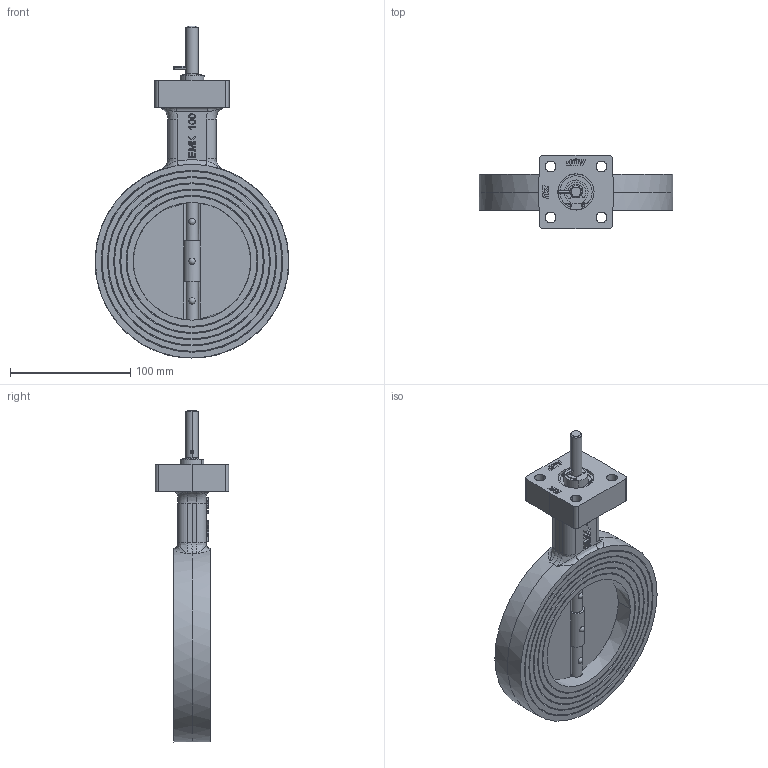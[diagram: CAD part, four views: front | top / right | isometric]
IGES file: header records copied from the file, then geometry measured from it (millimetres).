
Global section: file name: No Iges File Name specified; native system: AutoDesk Inventor R12.0; preprocessor: AutoDesk Inventor Iges Exporter R12.0; date: 20100823.090225; units: millimetre
Bounding box: 161.45 x 61 x 276.54 mm (x, y, z)
Volume: 534761.2 mm3; surface area: 96946.3 mm2
Topology: 1 solids, 1 shells, 418 faces, 1081 edges, 684 vertices
Faces by surface type: plane 185, bspline 99, cylinder 62, revolution 40, cone 22, sphere 6, torus 4
